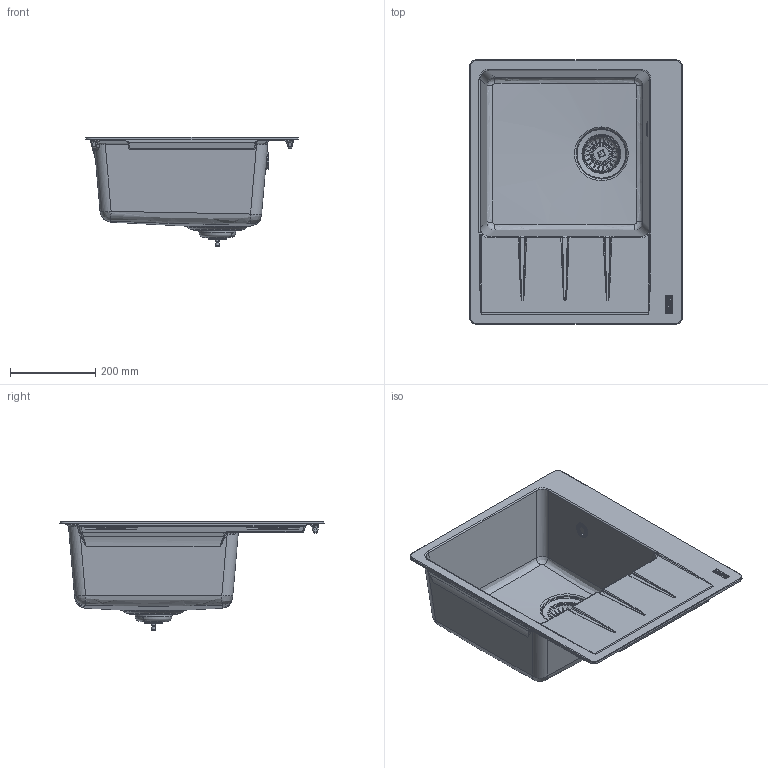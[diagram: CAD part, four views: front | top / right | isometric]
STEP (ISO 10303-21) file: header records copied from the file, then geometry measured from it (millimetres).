
FILE_DESCRIPTION(/* description */ (''),/* implementation_level */ '2;1');
FILE_NAME(/* name */ '3D001_Sinks_Centro_CNG-611-62-RHD',/* time_stamp */ '2024-03-14T09:59:58+01:00',/* author */ (''),/* organization */ (''),/* preprocessor_version */ 'ST-DEVELOPER v19.2',/* originating_system */ 'Rhino 8.4',/* authorisation */ '');
FILE_SCHEMA (('CONFIG_CONTROL_DESIGN'));
Length unit declared in the file: millimetre
Products named in the file (1): Document
Bounding box: 500 x 620 x 256.49 mm (x, y, z)
Volume: 4224646 mm3; surface area: 1218990.2 mm2
Topology: 18 solids, 19 shells, 1885 faces, 5020 edges, 3129 vertices
Faces by surface type: bspline 812, plane 565, cylinder 508
Full cylindrical faces by diameter (mm): 3.242 x1, 4 x1, 4.5 x1, 4.7 x1, 4.85 x1, 5.2 x1, 5.25 x1, 5.85 x2, 6 x1, 6.2 x1, 8 x1, 8.25 x1, 12.6 x1, 13.743 x1, 14.3 x1, 17.853 x1, 27.5 x1, 28 x6, 31 x1, 33 x2, 36 x1, 36.5 x2, 38 x4, 39.5 x1, 42 x4, 47 x1, 84 x1
Entity records: 103767 total; most frequent: CARTESIAN_POINT 60639, ORIENTED_EDGE 9934, DIRECTION 5041, EDGE_CURVE 4969, VERTEX_POINT 3129, AXIS2_PLACEMENT_3D 3057, B_SPLINE_CURVE_WITH_KNOTS 2812, EDGE_LOOP 1985
